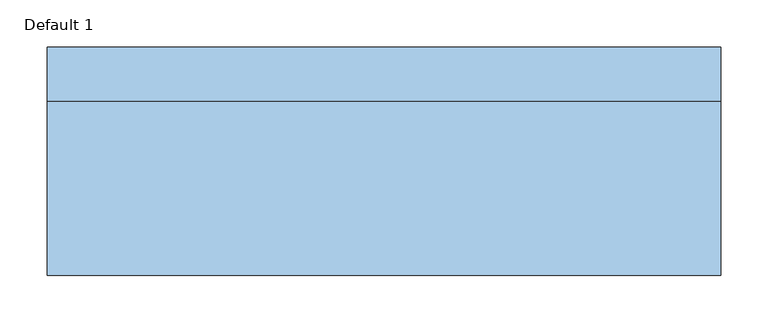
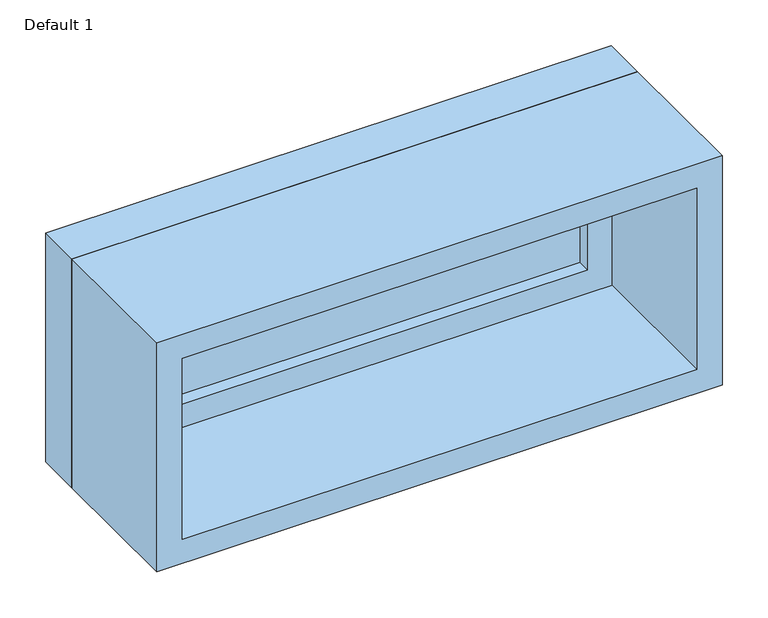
"""IFC4 building model written with IfcOpenShell, lengths in millimetres: window geometry, Planitar-Fixed : Default 1."""

from ifc_helpers import new_model, si_unit, frame, origin, place, context, project, spatial, polyline, outline, extrude, source, transform, mapped, element, save


def default_1_f6c69324(model_context):
    return source(origin(), model_context, "Body", "SweptSolid", [
        extrude(outline(polyline([(1200.2, -336.6), (933.4, -336.6), (933.4, 336.6), (1200.2, 336.6), (1200.2, -336.6)]), holes=[polyline([(1156.2, -292.6), (1156.2, 292.6), (977.4, 292.6), (977.4, -292.6), (1156.2, -292.6)])]), frame((0.0, 76.95, 0.0), z_axis=(0.0, 1.0, 0.0), x_axis=(0.0, 0.0, 1.0)), (0.0, 0.0, 1.0), 44.0),
        extrude(outline(polyline([(1219.2, -355.6), (914.4, -355.6), (914.4, 355.6), (1219.2, 355.6), (1219.2, -355.6)]), holes=[polyline([(1200.2, -336.6), (1200.2, 336.6), (933.4, 336.6), (933.4, -336.6), (1200.2, -336.6)])]), frame((0.0, 76.95, 0.0), z_axis=(0.0, 1.0, 0.0), x_axis=(0.0, 0.0, 1.0)), (0.0, 0.0, 1.0), 56.7),
        extrude(outline(polyline([(1219.2, -355.6), (914.4, -355.6), (914.4, 355.6), (1219.2, 355.6), (1219.2, -355.6)]), holes=[polyline([(1187.2, -323.6), (1187.2, 323.6), (946.4, 323.6), (946.4, -323.6), (1187.2, -323.6)])]), frame((0.0, -107.65, 0.0), z_axis=(0.0, 1.0, 0.0), x_axis=(0.0, 0.0, 1.0)), (0.0, 0.0, 1.0), 184.6),
        extrude(outline(polyline([(-292.6, 104.95), (292.6, 104.95), (292.6, 92.95), (-292.6, 92.95), (-292.6, 104.95)])), frame((0.0, 0.0, 977.4), z_axis=(0.0, 0.0, 1.0), x_axis=(1.0, 0.0, 0.0)), (0.0, 0.0, 1.0), 178.8),
    ])


if __name__ == "__main__":
    model = new_model("IFC4")
    model_context = context("Model", 3, world=origin())
    ifc_project = project(units=[si_unit("LENGTHUNIT", "METRE", prefix="MILLI")], contexts=[model_context])
    site = spatial("IfcSite", under=ifc_project)
    building = spatial("IfcBuilding", under=site)
    placement = place(None, origin())
    default_1_shape = default_1_f6c69324(model_context)
    element("IfcWindow", 1, ObjectType="Planitar-Fixed : Default 1", at=placement, inside=building, context=model_context, shape_type="MappedRepresentation", body=[
        mapped(default_1_shape, transform((0.0, 0.0, 0.0), x_axis=(1.0, 0.0, 0.0), y_axis=(0.0, 1.0, 0.0), z_axis=(0.0, 0.0, 1.0))),
    ])
    save(model, "model.ifc")
